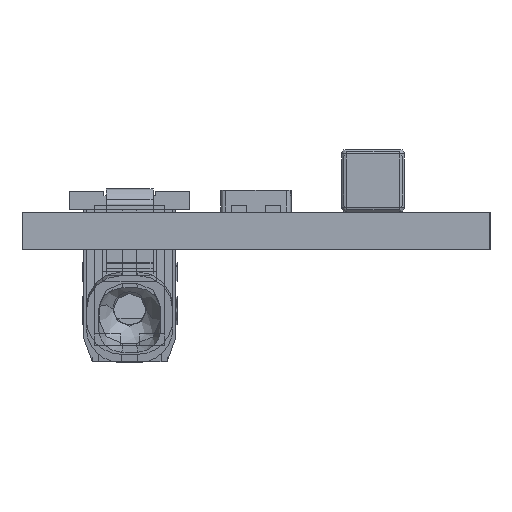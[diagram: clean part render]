
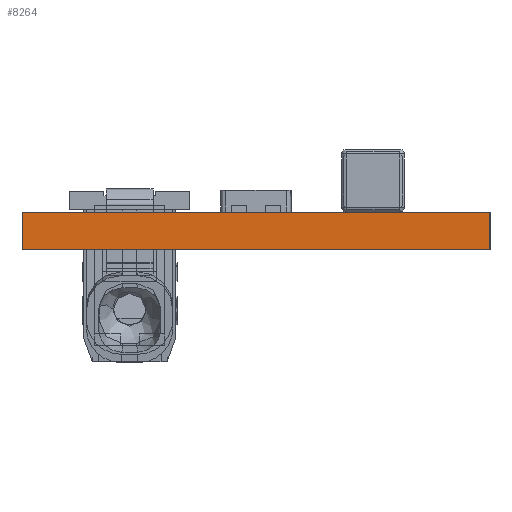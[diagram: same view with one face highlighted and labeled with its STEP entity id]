
A CAD part, left-side view. The second image highlights one B-rep face of the part: STEP entity #8264.
In plain terms, the highlighted planar face has unit normal (-1, 0, 0).
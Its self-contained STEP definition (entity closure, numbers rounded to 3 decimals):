
#5816=PLANE('',#57702);
#8264=ADVANCED_FACE('',(#11358),#5816,.T.);
#11358=FACE_OUTER_BOUND('',#14046,.T.);
#14046=EDGE_LOOP('',(#38451,#38452,#38453,#38454));
#19472=LINE('',#85980,#25488);
#19571=LINE('',#86267,#25587);
#19622=LINE('',#86395,#25638);
#19646=LINE('',#86432,#25662);
#25488=VECTOR('',#69076,1.);
#25587=VECTOR('',#69265,1.);
#25638=VECTOR('',#69368,1.);
#25662=VECTOR('',#69418,1.);
#38451=ORIENTED_EDGE('',*,*,#51743,.F.);
#38452=ORIENTED_EDGE('',*,*,#51836,.F.);
#38453=ORIENTED_EDGE('',*,*,#51600,.T.);
#38454=ORIENTED_EDGE('',*,*,#51812,.T.);
#44898=VERTEX_POINT('',#85979);
#44899=VERTEX_POINT('',#85981);
#45041=VERTEX_POINT('',#86266);
#45042=VERTEX_POINT('',#86268);
#51600=EDGE_CURVE('',#44899,#44898,#19472,.T.);
#51743=EDGE_CURVE('',#45041,#45042,#19571,.T.);
#51812=EDGE_CURVE('',#44898,#45042,#19622,.T.);
#51836=EDGE_CURVE('',#44899,#45041,#19646,.T.);
#57702=AXIS2_PLACEMENT_3D('',#86434,#69421,#69422);
#69076=DIRECTION('',(0.,-1.,0.));
#69265=DIRECTION('',(0.,-1.,0.));
#69368=DIRECTION('',(0.,0.,1.));
#69418=DIRECTION('',(0.,0.,1.));
#69421=DIRECTION('',(-1.,0.,0.));
#69422=DIRECTION('',(0.,0.,1.));
#85979=CARTESIAN_POINT('',(-575.,0.,-1.6));
#85980=CARTESIAN_POINT('',(-575.,20.,-1.6));
#85981=CARTESIAN_POINT('',(-575.,20.,-1.6));
#86266=CARTESIAN_POINT('',(-575.,20.,0.));
#86267=CARTESIAN_POINT('',(-575.,20.,0.));
#86268=CARTESIAN_POINT('',(-575.,0.,0.));
#86395=CARTESIAN_POINT('',(-575.,0.,-1.6));
#86432=CARTESIAN_POINT('',(-575.,20.,-1.6));
#86434=CARTESIAN_POINT('',(-575.,20.,-1.6));
